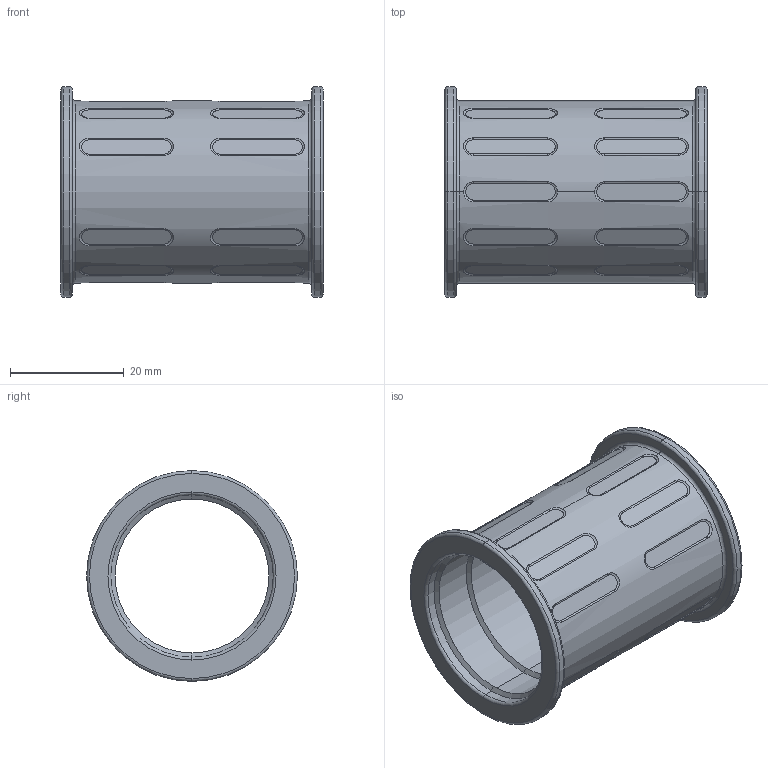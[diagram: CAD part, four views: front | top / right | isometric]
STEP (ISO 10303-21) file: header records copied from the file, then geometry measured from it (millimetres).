
FILE_DESCRIPTION (( 'STEP AP214' ), '1' );
FILE_NAME ('0000005647.STEP', '2017-07-13T07:46:16', ( 'HP' ), ( 'Hewlett-Packard Company' ), 'SwSTEP 2.0', 'SolidWorks 2014', '' );
FILE_SCHEMA (( 'AUTOMOTIVE_DESIGN' ));
Length unit declared in the file: millimetre
Products named in the file (1): 0000005647
Bounding box: 46 x 37 x 37 mm (x, y, z)
Volume: 8730 mm3; surface area: 10456.4 mm2
Topology: 1 solids, 1 shells, 162 faces, 380 edges, 240 vertices
Faces by surface type: cylinder 64, bspline 40, plane 26, torus 16, cone 16
Entity records: 8906 total; most frequent: CARTESIAN_POINT 5335, ORIENTED_EDGE 760, DIRECTION 706, EDGE_CURVE 380, AXIS2_PLACEMENT_3D 291, VERTEX_POINT 240, EDGE_LOOP 184, CIRCLE 168
